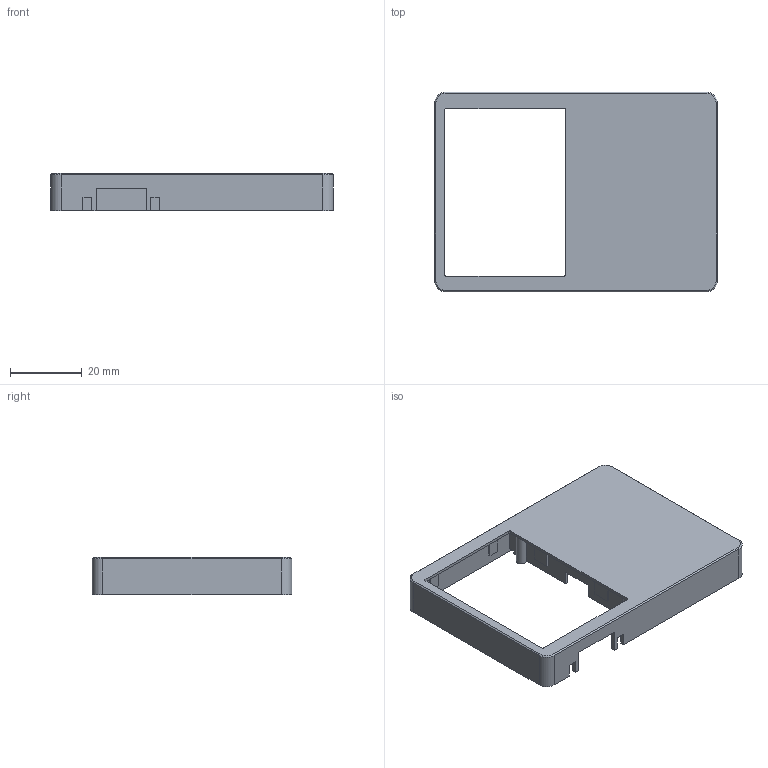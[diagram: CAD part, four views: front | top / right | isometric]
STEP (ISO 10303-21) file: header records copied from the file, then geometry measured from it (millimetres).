
FILE_DESCRIPTION(('Open CASCADE Model'),'2;1');
FILE_NAME('Open CASCADE Shape Model','2026-11-25T12:44:28',('Author'),( 'Open CASCADE'),'Open CASCADE STEP processor 7.9','Open CASCADE 7.9' ,'Unknown');
FILE_SCHEMA(('AUTOMOTIVE_DESIGN { 1 0 10303 214 1 1 1 1 }'));
Length unit declared in the file: millimetre
Products named in the file (1): Open CASCADE STEP translator 7.9 1
Bounding box: 79 x 55.8 x 10.4 mm (x, y, z)
Volume: 5951.1 mm3; surface area: 13221.5 mm2
Topology: 1 solids, 1 shells, 178 faces, 466 edges, 308 vertices
Faces by surface type: plane 126, cylinder 48, cone 4
Full cylindrical faces by diameter (mm): 1.2 x2
Entity records: 11680 total; most frequent: CARTESIAN_POINT 2209, DIRECTION 1802, LINE 1202, VECTOR 1202, ORIENTED_EDGE 932, PCURVE 932, DEFINITIONAL_REPRESENTATION 932, EDGE_CURVE 466
